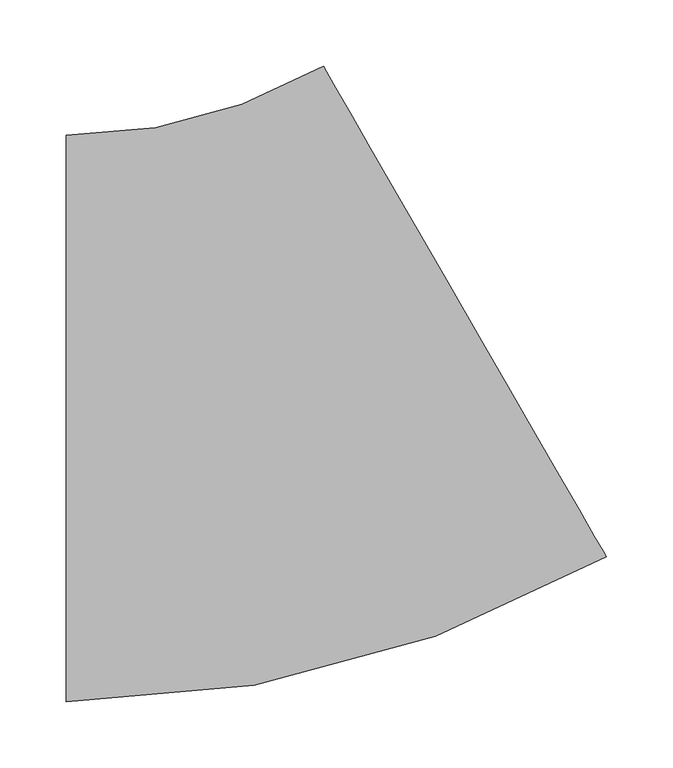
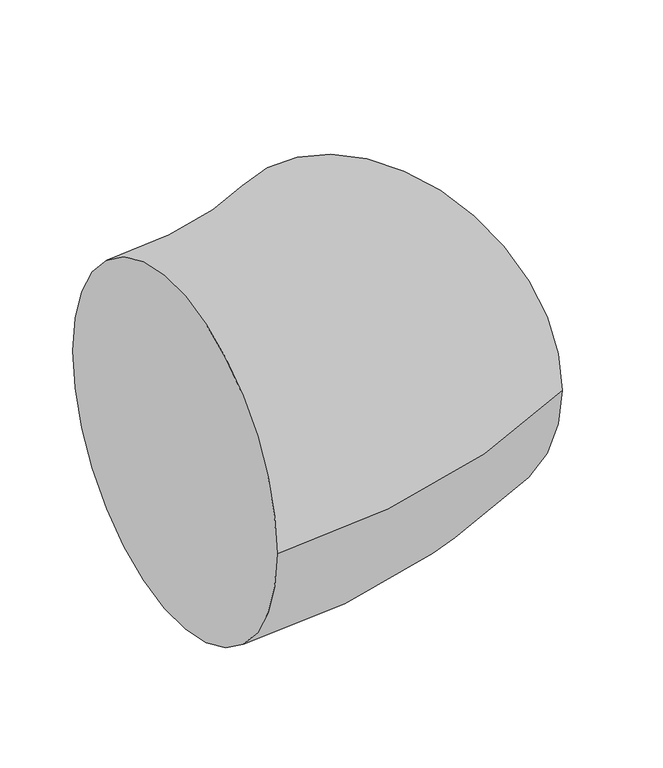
"""IFC4 building model written with IfcOpenShell, lengths in millimetres: pipe fitting geometry, ADSK_ДетальСтальнаяСварная_Отвод_ГОСТ17375-2001 : Исполнение 2."""

from ifc_helpers import new_model, si_unit, point, frame, origin, place, context, project, spatial, circle_curve, ellipse_curve, trimmed, source, transform, mapped, element, save
from ifc_brep_helpers import plane_surface, revolved_surface, advanced_brep


def pipe_fitting_c8d1a40b(model_context):
    return source(origin(), model_context, "Body", "AdvancedBrep", [
        advanced_brep(
        [(-160.7695155, -213.0, 0.0), (-160.7695155, 213.0, 0.0), (245.7304845, -104.0786533, 0.0), (32.7304845, 264.8481687, 0.0)],
        [
            (0, 1, circle_curve(frame((-160.7695155, 0.0, 0.0), z_axis=(-1.0, 0.0, 0.0), x_axis=(0.0, 1.0, 0.0)), 213.0)),
            (1, 0, circle_curve(frame((-160.7695155, 0.0, 0.0), z_axis=(-1.0, 0.0, 0.0), x_axis=(0.0, 1.0, 0.0)), 213.0)),
            (2, 3, circle_curve(frame((139.2304845, 80.3847577, 0.0), z_axis=(0.8660254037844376, 0.5000000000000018, 0.0), x_axis=(-0.5000000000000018, 0.8660254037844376, 0.0)), 213.0)),
            (3, 2, circle_curve(frame((139.2304845, 80.3847577, 0.0), z_axis=(0.8660254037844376, 0.5000000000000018, 0.0), x_axis=(-0.5000000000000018, 0.8660254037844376, 0.0)), 213.0)),
            (3, 1, circle_curve(frame((-160.7695155, 600.0, 0.0), z_axis=(0.0, 0.0, -1.0), x_axis=(0.0, -1.0, 0.0)), 387.0)),
            (0, 2, circle_curve(frame((-160.7695155, 600.0, 0.0), z_axis=(0.0, 0.0, 1.0), x_axis=(0.0, -1.0, 0.0)), 813.0)),
        ],
        [
            plane_surface(frame((-160.7695155, 0.0, 0.0), z_axis=(-1.0, 0.0, 0.0), x_axis=(0.0, 0.0, 1.0))),
            plane_surface(frame((139.2304845, 80.3847577, 0.0), z_axis=(0.8660254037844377, 0.5000000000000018, 0.0), x_axis=(0.0, 0.0, 1.0))),
            revolved_surface(trimmed(ellipse_curve(frame((-160.7695155, 0.0, 0.0), z_axis=(-1.0, 0.0, 0.0), x_axis=(0.0, 1.0, 0.0)), 213.0, 213.0), [point((-160.7695155, -213.0, 0.0))], [point((-160.7695155, 213.0, 0.0))], True, "CARTESIAN"), (-160.7695155, 600.0, 0.0), (0.0, 0.0, 1.0)),
            revolved_surface(trimmed(ellipse_curve(frame((-160.7695155, 0.0, 0.0), z_axis=(-1.0, 0.0, 0.0), x_axis=(0.0, 1.0, 0.0)), 213.0, 213.0), [point((-160.7695155, 213.0, 0.0))], [point((-160.7695155, -213.0, 0.0))], True, "CARTESIAN"), (-160.7695155, 600.0, 0.0), (0.0, 0.0, 1.0)),
        ],
        [
            (0, [[1, 2]]),
            (1, [[3, 4]]),
            (2, [[5, -1, 6, -4]]),
            (3, [[-6, -2, -5, -3]]),
        ],
    ),
    ])


if __name__ == "__main__":
    model = new_model("IFC4")
    model_context = context("Model", 3, world=origin())
    ifc_project = project(units=[si_unit("LENGTHUNIT", "METRE", prefix="MILLI")], contexts=[model_context])
    site = spatial("IfcSite", under=ifc_project)
    building = spatial("IfcBuilding", under=site)
    placement = place(None, origin())
    pipe_fitting_shape = pipe_fitting_c8d1a40b(model_context)
    element("IfcPipeFitting", 1, ObjectType="ADSK_ДетальСтальнаяСварная_Отвод_ГОСТ17375-2001 : Исполнение 2", at=placement, inside=building, context=model_context, shape_type="MappedRepresentation", body=[
        mapped(pipe_fitting_shape, transform((0.0, 0.0, 0.0), x_axis=(1.0, 0.0, 0.0), y_axis=(0.0, 1.0, 0.0), z_axis=(0.0, 0.0, 1.0))),
    ])
    save(model, "model.ifc")
